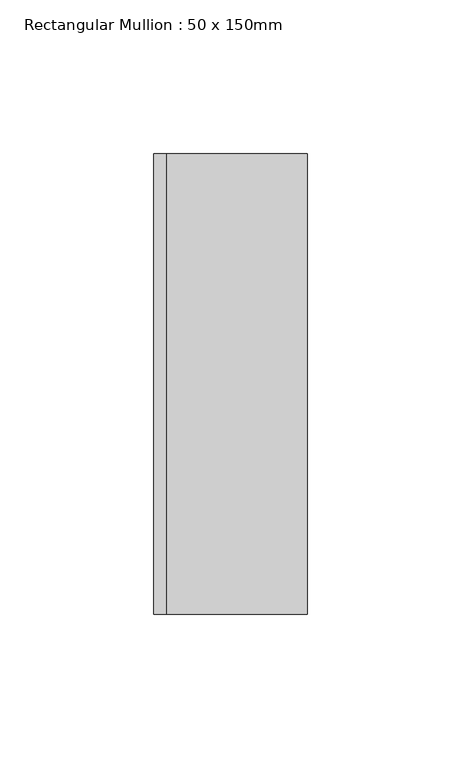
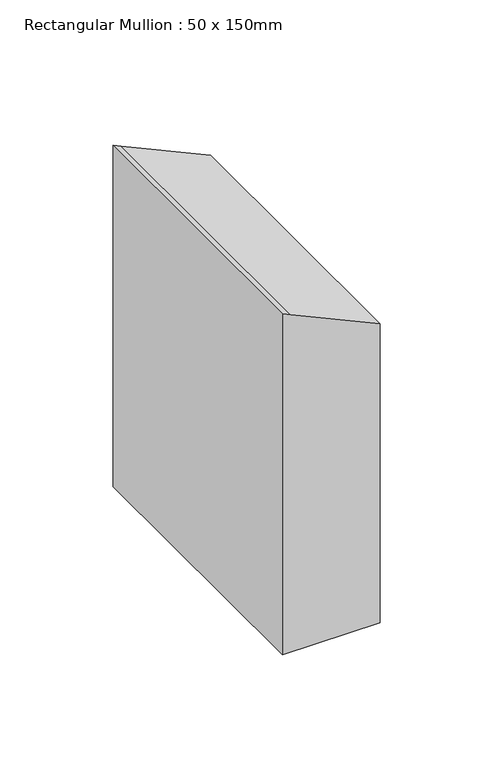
"""IFC4 building model written with IfcOpenShell, lengths in millimetres: member geometry, Rectangular Mullion : 50 x 150mm."""

from ifc_helpers import new_model, si_unit, origin, place, context, project, spatial, faceted_brep, source, transform, mapped, element, save


def rectangular_mullion_50_x_150mm_f5f4d1e2(model_context):
    return source(origin(), model_context, "Body", "Brep", [
        faceted_brep([(25.0, 75.0, -227.7662988), (25.0, -75.0, -227.7662988), (-25.0, -75.0, -227.7662988), (-25.0, 75.0, -227.7662988), (-25.0, 75.0, -43.5579203), (-20.7022377, 75.0, -45.5128263), (25.0, 75.0, -66.4157698), (-25.0, -75.0, -43.5579203), (25.0, -75.0, -66.4157698), (-20.7022821, -75.0, -45.512924)], [[[0, 1, 2, 3]], [[4, 5, 6, 0, 3]], [[7, 4, 3, 2]], [[8, 9, 7, 2, 1]], [[6, 8, 1, 0]], [[6, 5, 9, 8]], [[5, 4, 7, 9]]]),
    ])


if __name__ == "__main__":
    model = new_model("IFC4")
    model_context = context("Model", 3, world=origin())
    ifc_project = project(units=[si_unit("LENGTHUNIT", "METRE", prefix="MILLI")], contexts=[model_context])
    site = spatial("IfcSite", under=ifc_project)
    building = spatial("IfcBuilding", under=site)
    placement = place(None, origin())
    rectangular_mullion_50_x_150mm_shape = rectangular_mullion_50_x_150mm_f5f4d1e2(model_context)
    element("IfcMember", 1, ObjectType="Rectangular Mullion : 50 x 150mm", at=placement, inside=building, context=model_context, shape_type="MappedRepresentation", body=[
        mapped(rectangular_mullion_50_x_150mm_shape, transform((0.0, 0.0, 0.0), x_axis=(1.0, 0.0, 0.0), y_axis=(0.0, 1.0, 0.0), z_axis=(0.0, 0.0, 1.0))),
    ])
    save(model, "model.ifc")
